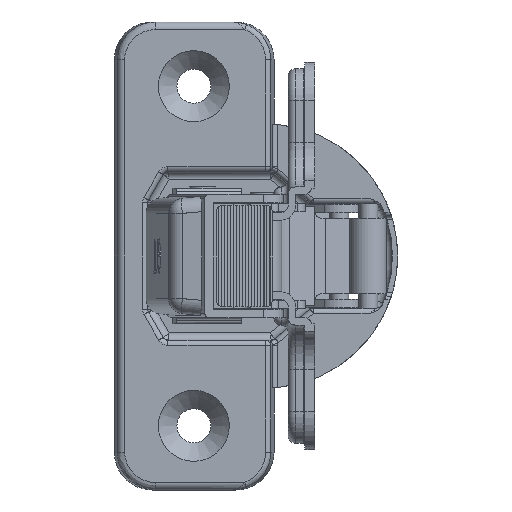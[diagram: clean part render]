
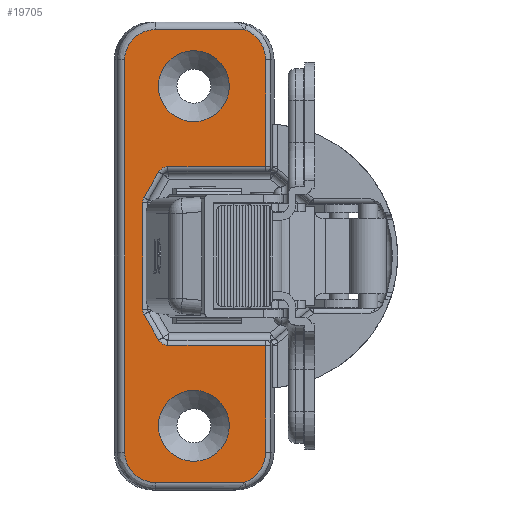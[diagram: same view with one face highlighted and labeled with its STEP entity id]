
A CAD part, left-side view. The second image highlights one B-rep face of the part: STEP entity #19705.
In plain terms, the highlighted planar face has unit normal (-1, 0, 0) as drawn and (0.276, 0.961, 0) by its records, which use the part's own axes.
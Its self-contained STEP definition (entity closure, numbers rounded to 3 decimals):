
#641=FACE_BOUND('',#3925,.T.);
#642=FACE_BOUND('',#3926,.T.);
#1435=CIRCLE('',#21605,1.4);
#1436=CIRCLE('',#21606,1.4);
#1437=CIRCLE('',#21607,1.4);
#1438=CIRCLE('',#21608,1.4);
#1439=CIRCLE('',#21609,4.7);
#1440=CIRCLE('',#21610,4.7);
#1882=PLANE('',#21604);
#2784=FACE_OUTER_BOUND('',#3924,.T.);
#3924=EDGE_LOOP('',(#16063,#16064,#16065,#16066,#16067,#16068,#16069,#16070,
#16071,#16072,#16073,#16074,#16075,#16076,#16077,#16078,#16079,#16080));
#3925=EDGE_LOOP('',(#16081));
#3926=EDGE_LOOP('',(#16082));
#5418=LINE('',#34105,#6928);
#5421=LINE('',#34144,#6931);
#5423=LINE('',#34177,#6933);
#5424=LINE('',#34180,#6934);
#5425=LINE('',#34182,#6935);
#5426=LINE('',#34186,#6936);
#5427=LINE('',#34190,#6937);
#5428=LINE('',#34194,#6938);
#5429=LINE('',#34198,#6939);
#5430=LINE('',#34199,#6940);
#6928=VECTOR('',#26338,11.837);
#6931=VECTOR('',#26353,52.);
#6933=VECTOR('',#26363,11.837);
#6934=VECTOR('',#26366,14.15);
#6935=VECTOR('',#26367,12.944);
#6936=VECTOR('',#26370,3.912);
#6937=VECTOR('',#26373,14.125);
#6938=VECTOR('',#26376,3.912);
#6939=VECTOR('',#26379,12.944);
#6940=VECTOR('',#26380,14.15);
#7371=ELLIPSE('',#21588,4.362,4.3);
#7372=ELLIPSE('',#21590,4.362,4.3);
#7375=ELLIPSE('',#21597,4.059,4.);
#7377=ELLIPSE('',#21602,4.059,4.);
#8732=VERTEX_POINT('',#33964);
#8735=VERTEX_POINT('',#33969);
#8738=VERTEX_POINT('',#34047);
#8739=VERTEX_POINT('',#34049);
#8742=VERTEX_POINT('',#34104);
#8744=VERTEX_POINT('',#34134);
#8746=VERTEX_POINT('',#34140);
#8748=VERTEX_POINT('',#34170);
#8750=VERTEX_POINT('',#34179);
#8751=VERTEX_POINT('',#34181);
#8752=VERTEX_POINT('',#34183);
#8753=VERTEX_POINT('',#34185);
#8754=VERTEX_POINT('',#34187);
#8755=VERTEX_POINT('',#34189);
#8756=VERTEX_POINT('',#34191);
#8757=VERTEX_POINT('',#34193);
#8758=VERTEX_POINT('',#34195);
#8759=VERTEX_POINT('',#34197);
#8760=VERTEX_POINT('',#34200);
#8761=VERTEX_POINT('',#34202);
#11251=EDGE_CURVE('',#8735,#8732,#7371,.T.);
#11255=EDGE_CURVE('',#8738,#8739,#7372,.T.);
#11260=EDGE_CURVE('',#8739,#8742,#5418,.T.);
#11265=EDGE_CURVE('',#8742,#8744,#7375,.T.);
#11268=EDGE_CURVE('',#8744,#8746,#5421,.T.);
#11271=EDGE_CURVE('',#8746,#8748,#7377,.T.);
#11273=EDGE_CURVE('',#8748,#8735,#5423,.T.);
#11274=EDGE_CURVE('',#8750,#8738,#5424,.T.);
#11275=EDGE_CURVE('',#8751,#8750,#5425,.T.);
#11276=EDGE_CURVE('',#8752,#8751,#1435,.T.);
#11277=EDGE_CURVE('',#8753,#8752,#5426,.T.);
#11278=EDGE_CURVE('',#8754,#8753,#1436,.T.);
#11279=EDGE_CURVE('',#8755,#8754,#5427,.T.);
#11280=EDGE_CURVE('',#8756,#8755,#1437,.T.);
#11281=EDGE_CURVE('',#8757,#8756,#5428,.T.);
#11282=EDGE_CURVE('',#8758,#8757,#1438,.T.);
#11283=EDGE_CURVE('',#8759,#8758,#5429,.T.);
#11284=EDGE_CURVE('',#8732,#8759,#5430,.T.);
#11285=EDGE_CURVE('',#8760,#8760,#1439,.T.);
#11286=EDGE_CURVE('',#8761,#8761,#1440,.T.);
#16063=ORIENTED_EDGE('',*,*,#11251,.F.);
#16064=ORIENTED_EDGE('',*,*,#11273,.F.);
#16065=ORIENTED_EDGE('',*,*,#11271,.F.);
#16066=ORIENTED_EDGE('',*,*,#11268,.F.);
#16067=ORIENTED_EDGE('',*,*,#11265,.F.);
#16068=ORIENTED_EDGE('',*,*,#11260,.F.);
#16069=ORIENTED_EDGE('',*,*,#11255,.F.);
#16070=ORIENTED_EDGE('',*,*,#11274,.F.);
#16071=ORIENTED_EDGE('',*,*,#11275,.F.);
#16072=ORIENTED_EDGE('',*,*,#11276,.F.);
#16073=ORIENTED_EDGE('',*,*,#11277,.F.);
#16074=ORIENTED_EDGE('',*,*,#11278,.F.);
#16075=ORIENTED_EDGE('',*,*,#11279,.F.);
#16076=ORIENTED_EDGE('',*,*,#11280,.F.);
#16077=ORIENTED_EDGE('',*,*,#11281,.F.);
#16078=ORIENTED_EDGE('',*,*,#11282,.F.);
#16079=ORIENTED_EDGE('',*,*,#11283,.F.);
#16080=ORIENTED_EDGE('',*,*,#11284,.F.);
#16081=ORIENTED_EDGE('',*,*,#11285,.T.);
#16082=ORIENTED_EDGE('',*,*,#11286,.T.);
#19705=ADVANCED_FACE('',(#2784,#641,#642),#1882,.T.);
#21588=AXIS2_PLACEMENT_3D('',#33971,#26326,#26327);
#21590=AXIS2_PLACEMENT_3D('',#34050,#26330,#26331);
#21597=AXIS2_PLACEMENT_3D('',#34138,#26346,#26347);
#21602=AXIS2_PLACEMENT_3D('',#34174,#26358,#26359);
#21604=AXIS2_PLACEMENT_3D('',#34178,#26364,#26365);
#21605=AXIS2_PLACEMENT_3D('',#34184,#26368,#26369);
#21606=AXIS2_PLACEMENT_3D('',#34188,#26371,#26372);
#21607=AXIS2_PLACEMENT_3D('',#34192,#26374,#26375);
#21608=AXIS2_PLACEMENT_3D('',#34196,#26377,#26378);
#21609=AXIS2_PLACEMENT_3D('',#34201,#26381,#26382);
#21610=AXIS2_PLACEMENT_3D('',#34203,#26383,#26384);
#26326=DIRECTION('center_axis',(-0.276,-0.961,0.));
#26327=DIRECTION('ref_axis',(-0.961,0.276,0.));
#26330=DIRECTION('center_axis',(-0.276,-0.961,0.));
#26331=DIRECTION('ref_axis',(-0.961,0.276,0.));
#26338=DIRECTION('',(0.961,-0.276,0.));
#26346=DIRECTION('center_axis',(-0.276,-0.961,0.));
#26347=DIRECTION('ref_axis',(0.961,-0.276,0.));
#26353=DIRECTION('',(0.,0.,1.));
#26358=DIRECTION('center_axis',(-0.276,-0.961,0.));
#26359=DIRECTION('ref_axis',(0.961,-0.276,0.));
#26363=DIRECTION('',(-0.961,0.276,0.));
#26364=DIRECTION('center_axis',(0.276,0.961,0.));
#26365=DIRECTION('ref_axis',(-0.961,0.276,0.));
#26366=DIRECTION('',(0.,0.,-1.));
#26367=DIRECTION('',(-0.961,0.276,0.));
#26368=DIRECTION('center_axis',(0.276,0.961,0.));
#26369=DIRECTION('ref_axis',(0.481,-0.138,-0.866));
#26370=DIRECTION('',(-0.481,0.138,-0.866));
#26371=DIRECTION('center_axis',(0.276,0.961,0.));
#26372=DIRECTION('ref_axis',(0.928,-0.266,-0.259));
#26373=DIRECTION('',(0.,0.,-1.));
#26374=DIRECTION('center_axis',(0.276,0.961,0.));
#26375=DIRECTION('ref_axis',(0.928,-0.266,0.259));
#26376=DIRECTION('',(0.481,-0.138,-0.866));
#26377=DIRECTION('center_axis',(0.276,0.961,0.));
#26378=DIRECTION('ref_axis',(0.481,-0.138,0.866));
#26379=DIRECTION('',(0.961,-0.276,0.));
#26380=DIRECTION('',(0.,0.,-1.));
#26381=DIRECTION('center_axis',(-0.276,-0.961,0.));
#26382=DIRECTION('ref_axis',(0.961,-0.276,0.));
#26383=DIRECTION('center_axis',(-0.276,-0.961,0.));
#26384=DIRECTION('ref_axis',(0.961,-0.276,0.));
#33964=CARTESIAN_POINT('',(14.593,1.462,26.));
#33969=CARTESIAN_POINT('',(17.247,0.7,30.));
#33971=CARTESIAN_POINT('Origin',(18.786,0.259,26.));
#34047=CARTESIAN_POINT('',(14.593,1.462,-26.));
#34049=CARTESIAN_POINT('',(17.247,0.7,-30.));
#34050=CARTESIAN_POINT('Origin',(18.786,0.259,-26.));
#34104=CARTESIAN_POINT('',(28.626,-2.563,-30.));
#34105=CARTESIAN_POINT('',(24.216,-1.298,-30.));
#34134=CARTESIAN_POINT('',(32.527,-3.682,-26.));
#34138=CARTESIAN_POINT('Origin',(28.626,-2.563,-26.));
#34140=CARTESIAN_POINT('',(32.527,-3.682,26.));
#34144=CARTESIAN_POINT('',(32.527,-3.682,0.));
#34170=CARTESIAN_POINT('',(28.626,-2.563,30.));
#34174=CARTESIAN_POINT('Origin',(28.626,-2.563,26.));
#34177=CARTESIAN_POINT('',(24.216,-1.298,30.));
#34178=CARTESIAN_POINT('Origin',(33.337,-3.914,0.));
#34179=CARTESIAN_POINT('',(14.593,1.462,-11.85));
#34180=CARTESIAN_POINT('',(14.593,1.462,0.));
#34181=CARTESIAN_POINT('',(27.035,-2.107,-11.85));
#34182=CARTESIAN_POINT('',(23.484,-1.089,-11.85));
#34183=CARTESIAN_POINT('',(28.201,-2.441,-11.15));
#34184=CARTESIAN_POINT('Origin',(27.035,-2.107,-10.45));
#34185=CARTESIAN_POINT('',(30.081,-2.98,-7.762));
#34186=CARTESIAN_POINT('',(31.066,-3.263,-5.987));
#34187=CARTESIAN_POINT('',(30.261,-3.032,-7.062));
#34188=CARTESIAN_POINT('Origin',(28.915,-2.646,-7.062));
#34189=CARTESIAN_POINT('',(30.261,-3.032,7.062));
#34190=CARTESIAN_POINT('',(30.261,-3.032,-3.625));
#34191=CARTESIAN_POINT('',(30.081,-2.98,7.762));
#34192=CARTESIAN_POINT('Origin',(28.915,-2.646,7.062));
#34193=CARTESIAN_POINT('',(28.201,-2.441,11.15));
#34194=CARTESIAN_POINT('',(32.148,-3.573,4.037));
#34195=CARTESIAN_POINT('',(27.035,-2.107,11.85));
#34196=CARTESIAN_POINT('Origin',(27.035,-2.107,10.45));
#34197=CARTESIAN_POINT('',(14.593,1.462,11.85));
#34198=CARTESIAN_POINT('',(30.38,-3.066,11.85));
#34199=CARTESIAN_POINT('',(14.593,1.462,0.));
#34200=CARTESIAN_POINT('',(28.243,-2.453,-22.5));
#34201=CARTESIAN_POINT('Origin',(23.725,-1.157,-22.5));
#34202=CARTESIAN_POINT('',(28.243,-2.453,22.5));
#34203=CARTESIAN_POINT('Origin',(23.725,-1.157,22.5));
